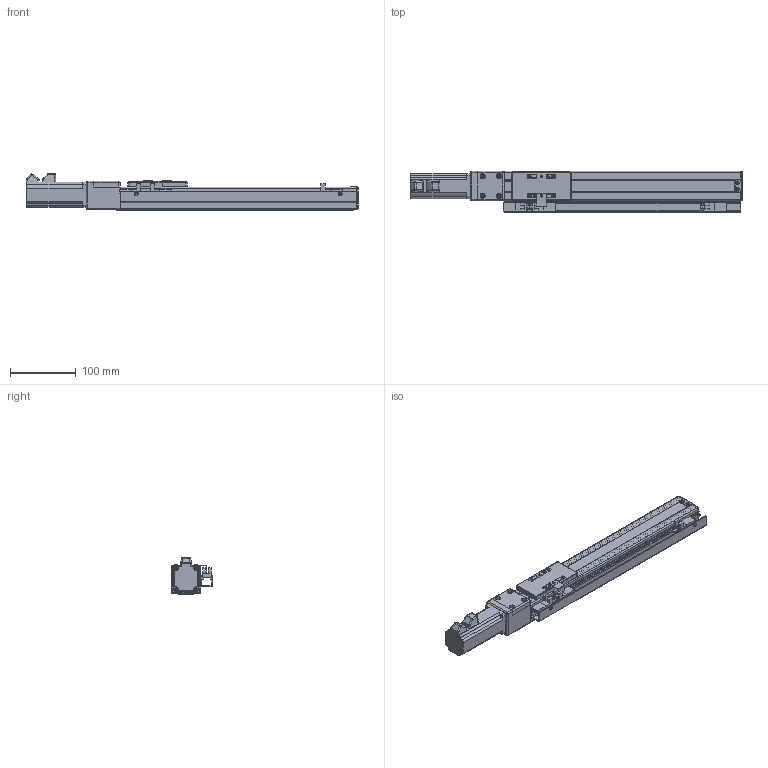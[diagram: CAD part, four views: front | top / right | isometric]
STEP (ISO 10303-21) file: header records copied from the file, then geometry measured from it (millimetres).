
FILE_DESCRIPTION (( 'STEP AP203' ), '1' );
FILE_NAME ('VT4-L12-C-S240-BC-P10-C4.STEP', '2015-10-26T03:45:22', ( '' ), ( '' ), 'SwSTEP 2.0', 'SolidWorks 2013', '' );
FILE_SCHEMA (( 'CONFIG_CONTROL_DESIGN' ));
Length unit declared in the file: millimetre
Products named in the file (15): T4-BCヶ傷裔-100; T4-BCヶ傷裔揤啣; T4-BC 詩湍; 侂狟100W MSMD012G1U; VT4-L12-C-S240-BC-P10-C4; T4-綴傷裔; T4-耜啣羲耀芞2_俴最240; T4-賑雄殤; T4-裔啣; T4-揤輸; T4-覜茼え; T6-癹弇羲壽羞_俴最240; EE-SX674-WR; SFKR0802佪裝TBI_俴最240; MGW12C-絳寢_俴最240
Assembly tree (17 placements, depth 2):
  VT4-L12-C-S240-BC-P10-C4
    T4-綴傷裔
    T4-耜啣羲耀芞2_俴最240  x2
    T4-賑雄殤
    T4-裔啣
    T4-揤輸
    T4-覜茼え
    T6-癹弇羲壽羞_俴最240
    EE-SX674-WR  x3
    SFKR0802佪裝TBI_俴最240
    MGW12C-絳寢_俴最240
    T4-BCヶ傷裔-100
    T4-BCヶ傷裔揤啣
    T4-BC 詩湍
    侂狟100W MSMD012G1U
Bounding box: 505 x 63 x 56 mm (x, y, z)
Volume: 453089.3 mm3; surface area: 278023.2 mm2
Topology: 20 solids, 20 shells, 1161 faces, 3096 edges, 1956 vertices
Faces by surface type: plane 535, cylinder 516, cone 56, torus 30, sphere 24
Entity records: 31964 total; most frequent: CARTESIAN_POINT 5899, DIRECTION 5279, ORIENTED_EDGE 4968, EDGE_CURVE 2484, AXIS2_PLACEMENT_3D 1904, VERTEX_POINT 1590, VECTOR 1471, LINE 1471
